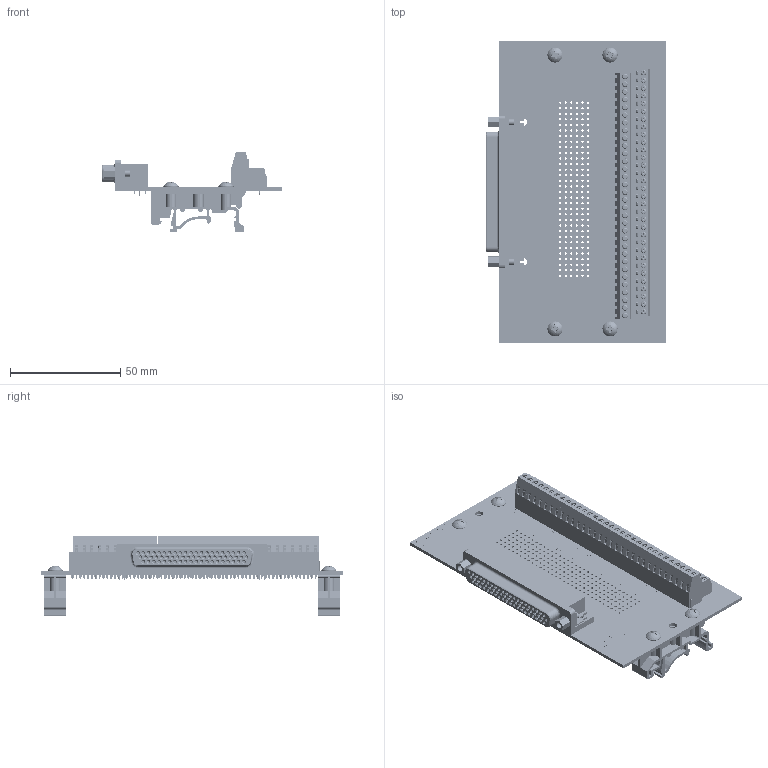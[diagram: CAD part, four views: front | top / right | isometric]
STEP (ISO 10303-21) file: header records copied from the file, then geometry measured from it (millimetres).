
FILE_DESCRIPTION (( 'STEP AP214' ), '1' );
FILE_NAME ('brkdd62hdf-r-din_rev_b.stp', '2018-05-15T02:31:28', ( '' ), ( '' ), 'SwSTEP 2.0', 'SolidWorks 2017', '' );
FILE_SCHEMA (( 'AUTOMOTIVE_DESIGN' ));
Length unit declared in the file: inch
Products named in the file (8): Screw Terminal Double Decker 4; BRKDD62HDF Board; Screw_SCSMPP-6-0.375_90184A127; brkdd62hdf-r-din_rev_b; Screw Terminal Double Decker 6; Female Right Angle 62 Pin; #4-40 Hex Screw; dinm01
Assembly tree (21 placements, depth 2):
  brkdd62hdf-r-din_rev_b
    BRKDD62HDF Board
    dinm01  x2
    Female Right Angle 62 Pin
    #4-40 Hex Screw  x2
    Screw Terminal Double Decker 4
    Screw Terminal Double Decker 6  x10
    Screw_SCSMPP-6-0.375_90184A127  x4
Bounding box: 82.1 x 137.16 x 36.77 mm (x, y, z)
Volume: 47426.1 mm3; surface area: 75843.3 mm2
Topology: 171 solids, 171 shells, 17043 faces, 45439 edges, 29290 vertices
Faces by surface type: plane 9439, cylinder 3897, bspline 2779, torus 582, cone 342, sphere 4
Full cylindrical faces by diameter (mm): 0.025 x2, 0.635 x22, 0.86 x62, 1.016 x192, 1.067 x61, 1.092 x64, 1.35 x64, 1.6 x64, 1.78 x62, 1.9 x64, 2 x384, 2.583 x64, 2.68 x64, 2.75 x6, 2.845 x4, 3.25 x2, 3.4 x2, 3.81 x6
Entity records: 397154 total; most frequent: CARTESIAN_POINT 166747, ORIENTED_EDGE 34854, DIRECTION 25540, EDGE_CURVE 17427, VERTEX_POINT 11825, VECTOR 11208, LINE 11208, EDGE_LOOP 8804
